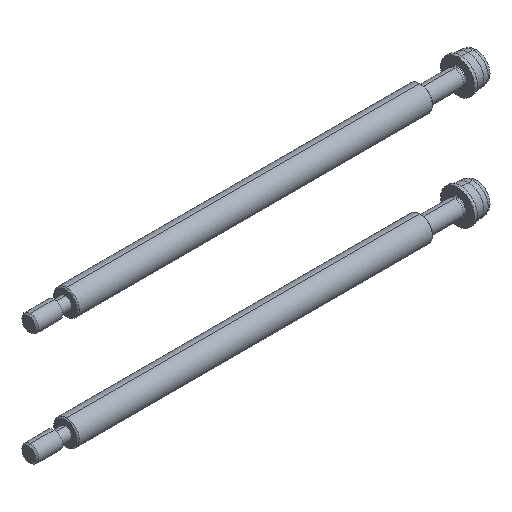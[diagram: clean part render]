
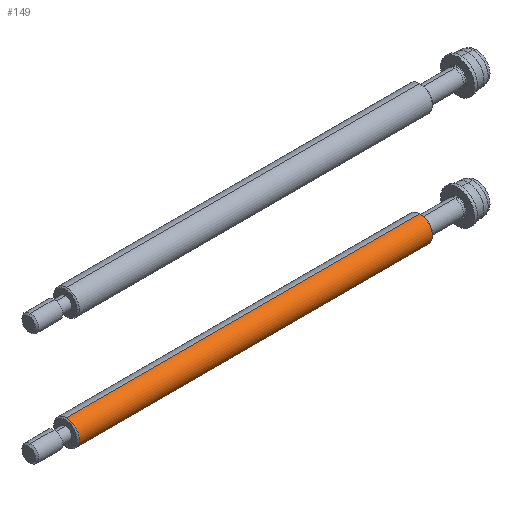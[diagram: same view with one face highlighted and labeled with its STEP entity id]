
A CAD part, isometric view. The second image highlights one B-rep face of the part: STEP entity #149.
In plain terms, the highlighted cylindrical face has radius 2.25 mm (diameter 4.5 mm), a partial arc.
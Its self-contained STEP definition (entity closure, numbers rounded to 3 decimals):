
#149=ADVANCED_FACE('',(#372),#371,.T.);
#371=CYLINDRICAL_SURFACE('',#816,2.25);
#372=FACE_OUTER_BOUND('',#817,.T.);
#813=CARTESIAN_POINT('',(0.,0.,0.));
#814=DIRECTION('',(1.,0.,0.));
#815=DIRECTION('',(0.,0.,1.));
#816=AXIS2_PLACEMENT_3D('',#813,#814,#815);
#817=EDGE_LOOP('',(#1094,#1095,#1096,#1097));
#1094=ORIENTED_EDGE('',*,*,#1243,.T.);
#1095=ORIENTED_EDGE('',*,*,#1244,.F.);
#1096=ORIENTED_EDGE('',*,*,#1239,.T.);
#1097=ORIENTED_EDGE('',*,*,#1245,.T.);
#1239=EDGE_CURVE('',#1522,#1521,#1541,.T.);
#1243=EDGE_CURVE('',#1548,#1547,#1567,.T.);
#1244=EDGE_CURVE('',#1522,#1547,#1573,.T.);
#1245=EDGE_CURVE('',#1521,#1548,#1579,.T.);
#1521=VERTEX_POINT('',#2027);
#1522=VERTEX_POINT('',#2028);
#1541=CIRCLE('',#2040,2.25);
#1547=VERTEX_POINT('',#2041);
#1548=VERTEX_POINT('',#2042);
#1567=CIRCLE('',#2054,2.25);
#1573=(BOUNDED_CURVE() B_SPLINE_CURVE(1,(#2055,#2056),.UNSPECIFIED.,.F.,.F.) B_SPLINE_CURVE_WITH_KNOTS((2,2),(0.083,0.917),.UNSPECIFIED.) CURVE() GEOMETRIC_REPRESENTATION_ITEM() RATIONAL_B_SPLINE_CURVE((1.,1.)) REPRESENTATION_ITEM('') );
#1579=(BOUNDED_CURVE() B_SPLINE_CURVE(1,(#2057,#2058),.UNSPECIFIED.,.F.,.F.) B_SPLINE_CURVE_WITH_KNOTS((2,2),(0.083,0.917),.UNSPECIFIED.) CURVE() GEOMETRIC_REPRESENTATION_ITEM() RATIONAL_B_SPLINE_CURVE((0.75,0.75)) REPRESENTATION_ITEM('') );
#2027=CARTESIAN_POINT('',(0.2,0.,-2.25));
#2028=CARTESIAN_POINT('',(0.2,0.,2.25));
#2037=CARTESIAN_POINT('',(0.2,0.,0.));
#2038=DIRECTION('',(1.,0.,0.));
#2039=DIRECTION('',(0.,0.,1.));
#2040=AXIS2_PLACEMENT_3D('',#2037,#2038,#2039);
#2041=CARTESIAN_POINT('',(62.8,0.,2.25));
#2042=CARTESIAN_POINT('',(62.8,0.,-2.25));
#2051=CARTESIAN_POINT('',(62.8,0.,0.));
#2052=DIRECTION('',(-1.,0.,0.));
#2053=DIRECTION('',(0.,0.,-1.));
#2054=AXIS2_PLACEMENT_3D('',#2051,#2052,#2053);
#2055=CARTESIAN_POINT('',(0.2,0.,2.25));
#2056=CARTESIAN_POINT('',(62.8,0.,2.25));
#2057=CARTESIAN_POINT('',(0.2,0.,-2.25));
#2058=CARTESIAN_POINT('',(62.8,0.,-2.25));
